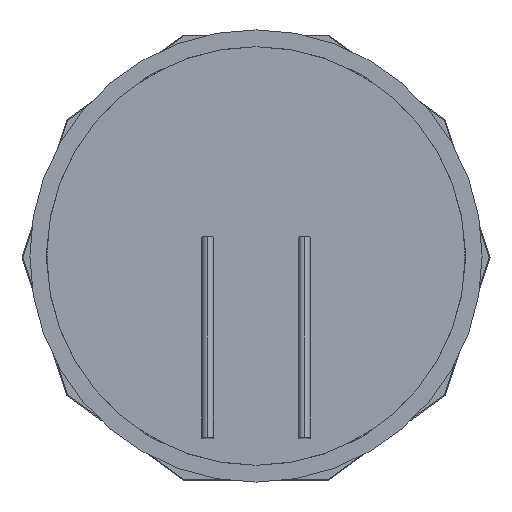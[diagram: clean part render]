
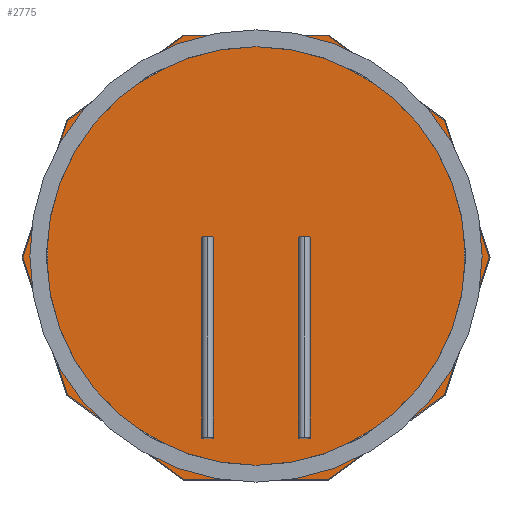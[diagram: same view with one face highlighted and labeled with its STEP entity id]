
A CAD part, front view. The second image highlights one B-rep face of the part: STEP entity #2775.
In plain terms, the highlighted planar face has unit normal (0, -1, 0).
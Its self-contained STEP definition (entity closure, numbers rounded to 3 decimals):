
#2204=DIRECTION('',(0.309,0.,-0.951));
#2205=VECTOR('',#2204,342.465);
#2206=CARTESIAN_POINT('',(-554.121,52.75,-4.));
#2207=LINE('',#2206,#2205);
#2212=DIRECTION('',(-0.309,0.,-0.951));
#2213=VECTOR('',#2212,342.465);
#2214=CARTESIAN_POINT('',(-448.293,52.75,321.704));
#2215=LINE('',#2214,#2213);
#2220=DIRECTION('',(-0.809,0.,-0.588));
#2221=VECTOR('',#2220,342.465);
#2222=CARTESIAN_POINT('',(-171.233,52.75,523.));
#2223=LINE('',#2222,#2221);
#2228=DIRECTION('',(-1.,0.,0.));
#2229=VECTOR('',#2228,342.465);
#2230=CARTESIAN_POINT('',(171.233,52.75,523.));
#2231=LINE('',#2230,#2229);
#2236=DIRECTION('',(-0.809,0.,0.588));
#2237=VECTOR('',#2236,342.465);
#2238=CARTESIAN_POINT('',(448.293,52.75,321.704));
#2239=LINE('',#2238,#2237);
#2244=DIRECTION('',(-0.309,0.,0.951));
#2245=VECTOR('',#2244,342.465);
#2246=CARTESIAN_POINT('',(554.121,52.75,-4.));
#2247=LINE('',#2246,#2245);
#2252=DIRECTION('',(0.309,0.,0.951));
#2253=VECTOR('',#2252,342.465);
#2254=CARTESIAN_POINT('',(448.293,52.75,-329.704));
#2255=LINE('',#2254,#2253);
#2260=DIRECTION('',(0.809,0.,0.588));
#2261=VECTOR('',#2260,342.465);
#2262=CARTESIAN_POINT('',(171.233,52.75,-531.));
#2263=LINE('',#2262,#2261);
#2268=DIRECTION('',(1.,0.,0.));
#2269=VECTOR('',#2268,342.465);
#2270=CARTESIAN_POINT('',(-171.233,52.75,-531.));
#2271=LINE('',#2270,#2269);
#2276=DIRECTION('',(0.809,0.,-0.588));
#2277=VECTOR('',#2276,342.465);
#2278=CARTESIAN_POINT('',(-448.293,52.75,-329.704));
#2279=LINE('',#2278,#2277);
#2443=CARTESIAN_POINT('',(-554.121,52.75,-4.));
#2444=CARTESIAN_POINT('',(-448.293,52.75,-329.704));
#2445=VERTEX_POINT('',#2443);
#2446=VERTEX_POINT('',#2444);
#2447=CARTESIAN_POINT('',(-171.233,52.75,-531.));
#2448=VERTEX_POINT('',#2447);
#2449=CARTESIAN_POINT('',(171.233,52.75,-531.));
#2450=VERTEX_POINT('',#2449);
#2451=CARTESIAN_POINT('',(448.293,52.75,-329.704));
#2452=VERTEX_POINT('',#2451);
#2453=CARTESIAN_POINT('',(554.121,52.75,-4.));
#2454=VERTEX_POINT('',#2453);
#2455=CARTESIAN_POINT('',(448.293,52.75,321.704));
#2456=VERTEX_POINT('',#2455);
#2457=CARTESIAN_POINT('',(171.233,52.75,523.));
#2458=VERTEX_POINT('',#2457);
#2459=CARTESIAN_POINT('',(-171.233,52.75,523.));
#2460=VERTEX_POINT('',#2459);
#2461=CARTESIAN_POINT('',(-448.293,52.75,321.704));
#2462=VERTEX_POINT('',#2461);
#2749=CARTESIAN_POINT('',(0.,52.75,0.));
#2750=DIRECTION('',(0.,1.,0.));
#2751=DIRECTION('',(1.,0.,0.));
#2752=AXIS2_PLACEMENT_3D('',#2749,#2750,#2751);
#2753=PLANE('',#2752);
#2754=ORIENTED_EDGE('',*,*,#2739,.F.);
#2756=ORIENTED_EDGE('',*,*,#2755,.F.);
#2758=ORIENTED_EDGE('',*,*,#2757,.F.);
#2760=ORIENTED_EDGE('',*,*,#2759,.F.);
#2762=ORIENTED_EDGE('',*,*,#2761,.F.);
#2764=ORIENTED_EDGE('',*,*,#2763,.F.);
#2766=ORIENTED_EDGE('',*,*,#2765,.F.);
#2768=ORIENTED_EDGE('',*,*,#2767,.F.);
#2770=ORIENTED_EDGE('',*,*,#2769,.F.);
#2772=ORIENTED_EDGE('',*,*,#2771,.F.);
#2773=EDGE_LOOP('',(#2754,#2756,#2758,#2760,#2762,#2764,#2766,#2768,#2770,
#2772));
#2774=FACE_OUTER_BOUND('',#2773,.F.);
#2739=EDGE_CURVE('',#2445,#2446,#2207,.T.);
#2755=EDGE_CURVE('',#2462,#2445,#2215,.T.);
#2757=EDGE_CURVE('',#2460,#2462,#2223,.T.);
#2759=EDGE_CURVE('',#2458,#2460,#2231,.T.);
#2761=EDGE_CURVE('',#2456,#2458,#2239,.T.);
#2763=EDGE_CURVE('',#2454,#2456,#2247,.T.);
#2765=EDGE_CURVE('',#2452,#2454,#2255,.T.);
#2767=EDGE_CURVE('',#2450,#2452,#2263,.T.);
#2769=EDGE_CURVE('',#2448,#2450,#2271,.T.);
#2771=EDGE_CURVE('',#2446,#2448,#2279,.T.);
#2775=ADVANCED_FACE('',(#2774),#2753,.F.);
